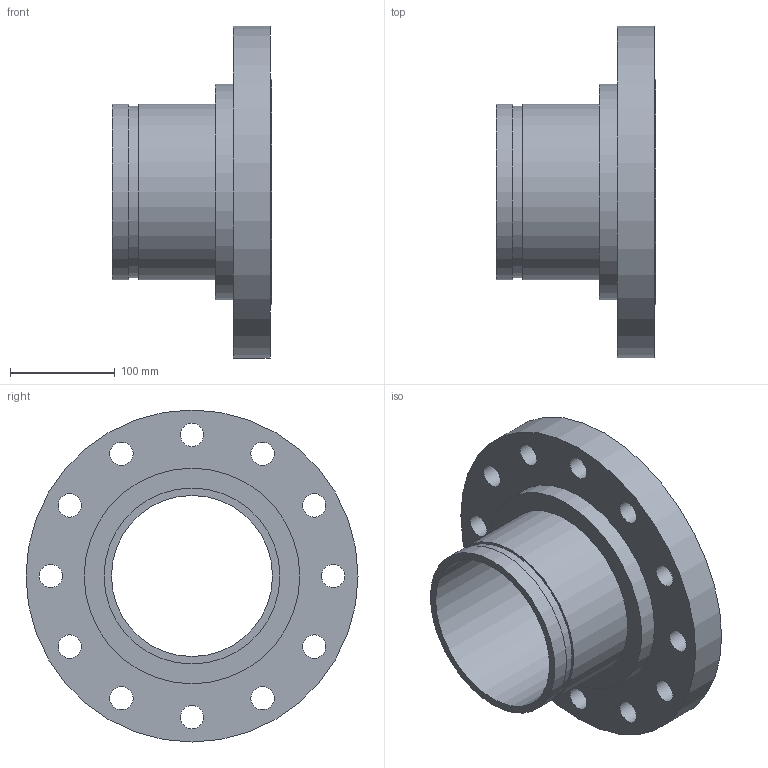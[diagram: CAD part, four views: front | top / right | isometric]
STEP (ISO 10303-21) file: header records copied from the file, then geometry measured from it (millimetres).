
FILE_DESCRIPTION(/* description */ ('VIC FLANGE ADAPTER No 46R','CAx-IF Rec.Pracs.---Representation and Presentation of Product Manufacturing Information (PMI)---4.0---2014-10-13'),/* implementation_level */ '2;1');
FILE_NAME(/* name */ 'C:\Users\kkamble\AppData\Roaming\Autodesk\ApplicationPlugins\Back Up\Victaulic_IPS_Flanged Adapter Nipple_CL 300 RF_No 46R (OGSxFLG)\Victaulic_IPS_Flanged Adapter Nipple_CL 300 RF_No 46R (OGSxFLG)_6 (150).stp',/* time_stamp */ '2020-07-26T22:25:56+06:00',/* author */ ('CONSTRUCTION PIPING SERVICES'),/* organization */ ('Victaulic'),/* preprocessor_version */ 'ST-DEVELOPER v17.2',/* originating_system */ 'Autodesk Inventor 2019',/* authorisation */ '');
FILE_SCHEMA (('AP242_MANAGED_MODEL_BASED_3D_ENGINEERING_MIM_LF { 1 0 10303 442 1 1 4 }'));
Length unit declared in the file: inch
Products named in the file (1): 046R-06.0
Bounding box: 152.4 x 317.5 x 317.5 mm (x, y, z)
Volume: 2583440.4 mm3; surface area: 316355.6 mm2
Topology: 1 solids, 1 shells, 26 faces, 71 edges, 52 vertices
Faces by surface type: cylinder 19, plane 7
Full cylindrical faces by diameter (mm): 22.352 x12, 154.051 x1, 163.957 x1, 168.275 x2, 206.248 x1, 215.9 x1, 317.5 x1
Entity records: 1009 total; most frequent: DIRECTION 177, CARTESIAN_POINT 150, ORIENTED_EDGE 142, AXIS2_PLACEMENT_3D 79, EDGE_CURVE 71, EDGE_LOOP 57, CIRCLE 52, VERTEX_POINT 52
